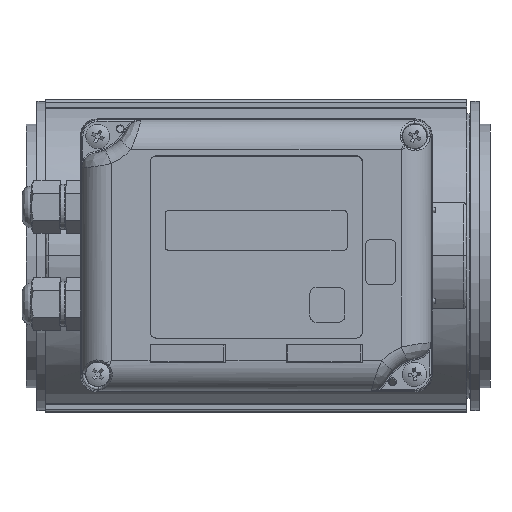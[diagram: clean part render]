
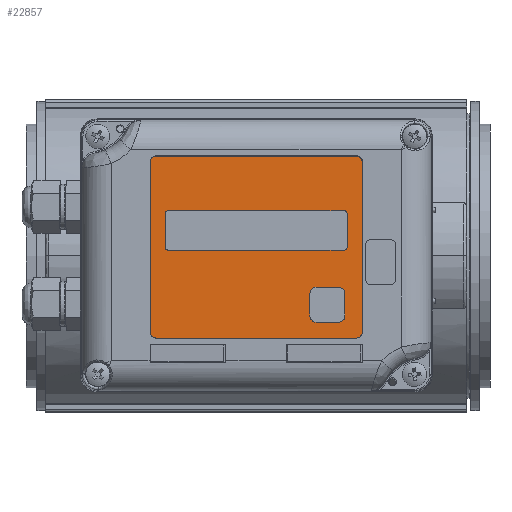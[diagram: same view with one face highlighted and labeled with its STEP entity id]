
A CAD part, top view. The second image highlights one B-rep face of the part: STEP entity #22857.
In plain terms, the highlighted planar face has unit normal (0, 0, 1).
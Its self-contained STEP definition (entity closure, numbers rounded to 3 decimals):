
#22857=ADVANCED_FACE('',(#74724,#74726,#74728),#74730,.T.);
#74724=FACE_BOUND('',#74725,.T.);
#74725=EDGE_LOOP('',(#88716,#88717,#88718,#88719,#88720,#88721,#88722,#88723));
#74726=FACE_BOUND('',#74727,.T.);
#74727=EDGE_LOOP('',(#88724,#88725,#88726,#88727,#88728,#88729,#88730,#88731));
#74728=FACE_BOUND('',#74729,.T.);
#74729=EDGE_LOOP('',(#88732,#88733,#88734,#88735,#88736,#88737,#88738,#88739));
#74730=PLANE('',#74731);
#74731=AXIS2_PLACEMENT_3D('',#74732,#74733,#74734);
#74732=CARTESIAN_POINT('',(-0.641,2.709,133.3));
#74733=DIRECTION('',(0.,0.,1.));
#74734=DIRECTION('',(-1.,0.,0.));
#88716=ORIENTED_EDGE('',*,*,#95761,.F.);
#88717=ORIENTED_EDGE('',*,*,#95762,.T.);
#88718=ORIENTED_EDGE('',*,*,#95763,.F.);
#88719=ORIENTED_EDGE('',*,*,#95764,.T.);
#88720=ORIENTED_EDGE('',*,*,#95765,.F.);
#88721=ORIENTED_EDGE('',*,*,#95766,.T.);
#88722=ORIENTED_EDGE('',*,*,#95767,.F.);
#88723=ORIENTED_EDGE('',*,*,#95768,.T.);
#88724=ORIENTED_EDGE('',*,*,#95769,.F.);
#88725=ORIENTED_EDGE('',*,*,#95770,.T.);
#88726=ORIENTED_EDGE('',*,*,#95771,.F.);
#88727=ORIENTED_EDGE('',*,*,#95772,.T.);
#88728=ORIENTED_EDGE('',*,*,#95773,.F.);
#88729=ORIENTED_EDGE('',*,*,#95774,.T.);
#88730=ORIENTED_EDGE('',*,*,#95775,.F.);
#88731=ORIENTED_EDGE('',*,*,#95776,.T.);
#88732=ORIENTED_EDGE('',*,*,#95777,.F.);
#88733=ORIENTED_EDGE('',*,*,#95778,.T.);
#88734=ORIENTED_EDGE('',*,*,#95779,.F.);
#88735=ORIENTED_EDGE('',*,*,#95780,.T.);
#88736=ORIENTED_EDGE('',*,*,#95781,.F.);
#88737=ORIENTED_EDGE('',*,*,#95782,.T.);
#88738=ORIENTED_EDGE('',*,*,#95783,.F.);
#88739=ORIENTED_EDGE('',*,*,#95784,.T.);
#95761=EDGE_CURVE('',#105757,#105758,#105759,.F.);
#95762=EDGE_CURVE('',#105757,#105760,#105761,.T.);
#95763=EDGE_CURVE('',#105762,#105760,#105763,.F.);
#95764=EDGE_CURVE('',#105762,#105764,#105765,.T.);
#95765=EDGE_CURVE('',#105766,#105764,#105767,.F.);
#95766=EDGE_CURVE('',#105766,#105768,#105769,.T.);
#95767=EDGE_CURVE('',#105770,#105768,#105771,.F.);
#95768=EDGE_CURVE('',#105770,#105758,#105772,.T.);
#95769=EDGE_CURVE('',#105773,#105774,#105775,.F.);
#95770=EDGE_CURVE('',#105773,#105776,#105777,.F.);
#95771=EDGE_CURVE('',#105778,#105776,#105779,.F.);
#95772=EDGE_CURVE('',#105778,#105780,#105781,.F.);
#95773=EDGE_CURVE('',#105782,#105780,#105783,.F.);
#95774=EDGE_CURVE('',#105782,#105784,#105785,.F.);
#95775=EDGE_CURVE('',#105786,#105784,#105787,.F.);
#95776=EDGE_CURVE('',#105786,#105774,#105788,.F.);
#95777=EDGE_CURVE('',#105789,#105790,#105791,.F.);
#95778=EDGE_CURVE('',#105789,#105792,#105793,.F.);
#95779=EDGE_CURVE('',#105794,#105792,#105795,.F.);
#95780=EDGE_CURVE('',#105794,#105796,#105797,.F.);
#95781=EDGE_CURVE('',#105798,#105796,#105799,.F.);
#95782=EDGE_CURVE('',#105798,#105800,#105801,.F.);
#95783=EDGE_CURVE('',#105802,#105800,#105803,.F.);
#95784=EDGE_CURVE('',#105802,#105790,#105804,.F.);
#105757=VERTEX_POINT('',#197369);
#105758=VERTEX_POINT('',#197370);
#105759=CIRCLE('',#197371,2.);
#105760=VERTEX_POINT('',#197375);
#105761=LINE('',#197376,#197377);
#105762=VERTEX_POINT('',#197379);
#105763=CIRCLE('',#197380,2.);
#105764=VERTEX_POINT('',#197384);
#105765=LINE('',#197385,#197386);
#105766=VERTEX_POINT('',#197388);
#105767=CIRCLE('',#197389,2.);
#105768=VERTEX_POINT('',#197393);
#105769=LINE('',#197394,#197395);
#105770=VERTEX_POINT('',#197397);
#105771=CIRCLE('',#197398,2.);
#105772=LINE('',#197402,#197403);
#105773=VERTEX_POINT('',#197405);
#105774=VERTEX_POINT('',#197406);
#105775=CIRCLE('',#197407,2.);
#105776=VERTEX_POINT('',#197411);
#105777=LINE('',#197412,#197413);
#105778=VERTEX_POINT('',#197415);
#105779=CIRCLE('',#197416,2.);
#105780=VERTEX_POINT('',#197420);
#105781=LINE('',#197421,#197422);
#105782=VERTEX_POINT('',#197424);
#105783=CIRCLE('',#197425,2.);
#105784=VERTEX_POINT('',#197429);
#105785=LINE('',#197430,#197431);
#105786=VERTEX_POINT('',#197433);
#105787=CIRCLE('',#197434,2.);
#105788=LINE('',#197438,#197439);
#105789=VERTEX_POINT('',#197441);
#105790=VERTEX_POINT('',#197442);
#105791=CIRCLE('',#197443,1.);
#105792=VERTEX_POINT('',#197447);
#105793=LINE('',#197448,#197449);
#105794=VERTEX_POINT('',#197451);
#105795=CIRCLE('',#197452,1.);
#105796=VERTEX_POINT('',#197456);
#105797=LINE('',#197457,#197458);
#105798=VERTEX_POINT('',#197460);
#105799=CIRCLE('',#197461,1.);
#105800=VERTEX_POINT('',#197465);
#105801=LINE('',#197466,#197467);
#105802=VERTEX_POINT('',#197469);
#105803=CIRCLE('',#197470,1.);
#105804=LINE('',#197474,#197475);
#197369=CARTESIAN_POINT('',(-33.641,-27.291,133.3));
#197370=CARTESIAN_POINT('',(-35.641,-25.291,133.3));
#197371=AXIS2_PLACEMENT_3D('',#197372,#197373,#197374);
#197372=CARTESIAN_POINT('',(-33.641,-25.291,133.3));
#197373=DIRECTION('',(0.,0.,1.));
#197374=DIRECTION('',(-1.,0.,0.));
#197375=CARTESIAN_POINT('',(32.359,-27.291,133.3));
#197376=CARTESIAN_POINT('',(-33.641,-27.291,133.3));
#197377=VECTOR('',#197378,1.);
#197378=DIRECTION('',(1.,0.,0.));
#197379=CARTESIAN_POINT('',(34.359,-25.291,133.3));
#197380=AXIS2_PLACEMENT_3D('',#197381,#197382,#197383);
#197381=CARTESIAN_POINT('',(32.359,-25.291,133.3));
#197382=DIRECTION('',(0.,0.,1.));
#197383=DIRECTION('',(0.,-1.,0.));
#197384=CARTESIAN_POINT('',(34.359,30.709,133.3));
#197385=CARTESIAN_POINT('',(34.359,-25.291,133.3));
#197386=VECTOR('',#197387,1.);
#197387=DIRECTION('',(0.,1.,0.));
#197388=CARTESIAN_POINT('',(32.359,32.709,133.3));
#197389=AXIS2_PLACEMENT_3D('',#197390,#197391,#197392);
#197390=CARTESIAN_POINT('',(32.359,30.709,133.3));
#197391=DIRECTION('',(0.,0.,1.));
#197392=DIRECTION('',(1.,0.,0.));
#197393=CARTESIAN_POINT('',(-33.641,32.709,133.3));
#197394=CARTESIAN_POINT('',(32.359,32.709,133.3));
#197395=VECTOR('',#197396,1.);
#197396=DIRECTION('',(-1.,0.,0.));
#197397=CARTESIAN_POINT('',(-35.641,30.709,133.3));
#197398=AXIS2_PLACEMENT_3D('',#197399,#197400,#197401);
#197399=CARTESIAN_POINT('',(-33.641,30.709,133.3));
#197400=DIRECTION('',(0.,0.,1.));
#197401=DIRECTION('',(0.,1.,0.));
#197402=CARTESIAN_POINT('',(-35.641,30.709,133.3));
#197403=VECTOR('',#197404,1.);
#197404=DIRECTION('',(0.,-1.,0.));
#197405=CARTESIAN_POINT('',(19.109,-10.541,133.3));
#197406=CARTESIAN_POINT('',(17.109,-12.541,133.3));
#197407=AXIS2_PLACEMENT_3D('',#197408,#197409,#197410);
#197408=CARTESIAN_POINT('',(19.109,-12.541,133.3));
#197409=DIRECTION('',(-0.,0.,-1.));
#197410=DIRECTION('',(-1.,0.,0.));
#197411=CARTESIAN_POINT('',(26.609,-10.541,133.3));
#197412=CARTESIAN_POINT('',(26.609,-10.541,133.3));
#197413=VECTOR('',#197414,1.);
#197414=DIRECTION('',(-1.,0.,0.));
#197415=CARTESIAN_POINT('',(28.609,-12.541,133.3));
#197416=AXIS2_PLACEMENT_3D('',#197417,#197418,#197419);
#197417=CARTESIAN_POINT('',(26.609,-12.541,133.3));
#197418=DIRECTION('',(0.,-0.,-1.));
#197419=DIRECTION('',(0.,1.,0.));
#197420=CARTESIAN_POINT('',(28.609,-20.041,133.3));
#197421=CARTESIAN_POINT('',(28.609,-20.041,133.3));
#197422=VECTOR('',#197423,1.);
#197423=DIRECTION('',(0.,1.,0.));
#197424=CARTESIAN_POINT('',(26.609,-22.041,133.3));
#197425=AXIS2_PLACEMENT_3D('',#197426,#197427,#197428);
#197426=CARTESIAN_POINT('',(26.609,-20.041,133.3));
#197427=DIRECTION('',(0.,-0.,-1.));
#197428=DIRECTION('',(1.,0.,0.));
#197429=CARTESIAN_POINT('',(19.109,-22.041,133.3));
#197430=CARTESIAN_POINT('',(19.109,-22.041,133.3));
#197431=VECTOR('',#197432,1.);
#197432=DIRECTION('',(1.,0.,0.));
#197433=CARTESIAN_POINT('',(17.109,-20.041,133.3));
#197434=AXIS2_PLACEMENT_3D('',#197435,#197436,#197437);
#197435=CARTESIAN_POINT('',(19.109,-20.041,133.3));
#197436=DIRECTION('',(-0.,0.,-1.));
#197437=DIRECTION('',(0.,-1.,0.));
#197438=CARTESIAN_POINT('',(17.109,-12.541,133.3));
#197439=VECTOR('',#197440,1.);
#197440=DIRECTION('',(0.,-1.,0.));
#197441=CARTESIAN_POINT('',(-29.641,14.709,133.3));
#197442=CARTESIAN_POINT('',(-30.641,13.709,133.3));
#197443=AXIS2_PLACEMENT_3D('',#197444,#197445,#197446);
#197444=CARTESIAN_POINT('',(-29.641,13.709,133.3));
#197445=DIRECTION('',(0.,-0.,-1.));
#197446=DIRECTION('',(-1.,0.,0.));
#197447=CARTESIAN_POINT('',(28.359,14.709,133.3));
#197448=CARTESIAN_POINT('',(28.359,14.709,133.3));
#197449=VECTOR('',#197450,1.);
#197450=DIRECTION('',(-1.,0.,0.));
#197451=CARTESIAN_POINT('',(29.359,13.709,133.3));
#197452=AXIS2_PLACEMENT_3D('',#197453,#197454,#197455);
#197453=CARTESIAN_POINT('',(28.359,13.709,133.3));
#197454=DIRECTION('',(0.,-0.,-1.));
#197455=DIRECTION('',(0.,1.,0.));
#197456=CARTESIAN_POINT('',(29.359,2.709,133.3));
#197457=CARTESIAN_POINT('',(29.359,2.709,133.3));
#197458=VECTOR('',#197459,1.);
#197459=DIRECTION('',(0.,1.,0.));
#197460=CARTESIAN_POINT('',(28.359,1.709,133.3));
#197461=AXIS2_PLACEMENT_3D('',#197462,#197463,#197464);
#197462=CARTESIAN_POINT('',(28.359,2.709,133.3));
#197463=DIRECTION('',(0.,-0.,-1.));
#197464=DIRECTION('',(1.,0.,0.));
#197465=CARTESIAN_POINT('',(-29.641,1.709,133.3));
#197466=CARTESIAN_POINT('',(-29.641,1.709,133.3));
#197467=VECTOR('',#197468,1.);
#197468=DIRECTION('',(1.,0.,0.));
#197469=CARTESIAN_POINT('',(-30.641,2.709,133.3));
#197470=AXIS2_PLACEMENT_3D('',#197471,#197472,#197473);
#197471=CARTESIAN_POINT('',(-29.641,2.709,133.3));
#197472=DIRECTION('',(-0.,0.,-1.));
#197473=DIRECTION('',(0.,-1.,0.));
#197474=CARTESIAN_POINT('',(-30.641,13.709,133.3));
#197475=VECTOR('',#197476,1.);
#197476=DIRECTION('',(0.,-1.,0.));
